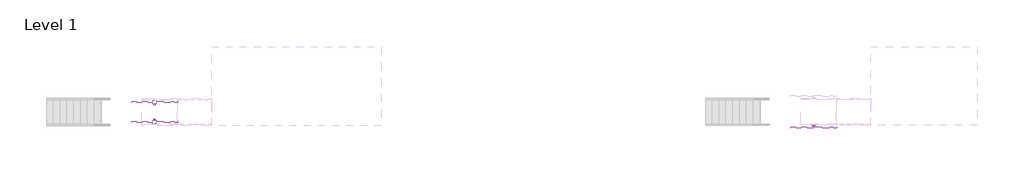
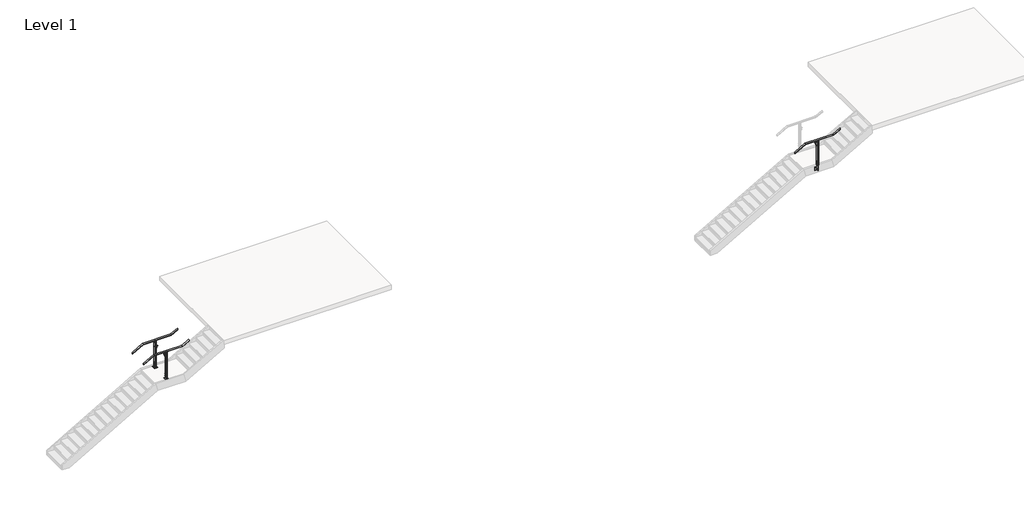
# One storey, part 32 of 36: 3 railings.
"""IFC4 building model written with IfcOpenShell, lengths in millimetres."""

from ifc_helpers import new_model, si_unit, point, frame, frame_2d, origin, place, context, project, spatial, polyline, circle_curve, ellipse_curve, trimmed, segment, composite_curve, outline, extrude, element, save
from ifc_brep_helpers import plane_surface, cylinder_surface, revolved_surface, advanced_brep

model = new_model("IFC4")

# Units and contexts
model_context = context("Model", 3, world=origin())
ifc_project = project(units=[si_unit("LENGTHUNIT", "METRE", prefix="MILLI")], contexts=[model_context])

# Site, building, storey
site = spatial("IfcSite", under=ifc_project)
building = spatial("IfcBuilding", under=site)
storey = spatial("IfcBuildingStorey", under=building, Name="Level 1", Elevation=0.0)

# Railings
placement = place(None, origin())
element("IfcRailing", 1, ObjectType="VIVA-BLADE-Glass-Fascia Mount-Stair-Landing", at=placement, inside=storey, context=model_context, shape_type="SolidModel", body=[
    advanced_brep(
    [(161125.2211992, 15702.4539886, 3047.7740933), (161125.2211992, 15753.2539886, 3047.7740933), (161512.9665359, 15702.4539886, 3269.3428571), (161512.9665359, 15753.2539886, 3269.3428571), (162579.7665359, 15702.4539886, 3269.3428571), (162579.7665359, 15753.2539886, 3269.3428571), (162830.1961992, 15702.4539886, 3412.4455219), (162830.1961992, 15753.2539886, 3412.4455219)],
    [
        (0, 1, ellipse_curve(frame((161125.2211992, 15727.8539886, 3047.7740933), z_axis=(-1.0, 0.0, 0.0), x_axis=(0.0, 0.0, -1.0)), 29.2544781, 25.4)),
        (1, 0, ellipse_curve(frame((161125.2211992, 15727.8539886, 3047.7740933), z_axis=(-1.0, 0.0, 0.0), x_axis=(0.0, 0.0, -1.0)), 29.2544781, 25.4)),
        (0, 2),
        (2, 3, ellipse_curve(frame((161512.9665359, 15727.8539886, 3269.3428571), z_axis=(-0.9664996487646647, 0.0, -0.25666793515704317), x_axis=(0.2566679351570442, 0.0, -0.9664996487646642)), 26.2804027, 25.4)),
        (3, 1),
        (3, 2, ellipse_curve(frame((161512.9665359, 15727.8539886, 3269.3428571), z_axis=(-0.9664996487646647, 0.0, -0.25666793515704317), x_axis=(0.2566679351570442, 0.0, -0.9664996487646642)), 26.2804027, 25.4)),
        (2, 4),
        (4, 5, ellipse_curve(frame((162579.7665359, 15727.8539886, 3269.3428571), z_axis=(-0.966499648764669, 0.0, -0.25666793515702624), x_axis=(-0.25666793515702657, 0.0, 0.966499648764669)), 26.2804027, 25.4)),
        (5, 3),
        (5, 4, ellipse_curve(frame((162579.7665359, 15727.8539886, 3269.3428571), z_axis=(-0.966499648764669, 0.0, -0.25666793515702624), x_axis=(-0.25666793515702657, 0.0, 0.966499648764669)), 26.2804027, 25.4)),
        (6, 7, ellipse_curve(frame((162830.1961992, 15727.8539886, 3412.4455219), z_axis=(1.0, 0.0, 0.0), x_axis=(0.0, 0.0, -1.0)), 29.2544781, 25.4)),
        (7, 6, ellipse_curve(frame((162830.1961992, 15727.8539886, 3412.4455219), z_axis=(1.0, 0.0, 0.0), x_axis=(0.0, 0.0, -1.0)), 29.2544781, 25.4)),
        (4, 6),
        (7, 5),
    ],
    [
        plane_surface(frame((161125.2211992, 15727.8539886, 3077.0285714), z_axis=(-1.0, 0.0, 0.0), x_axis=(0.0, 1.0, 0.0))),
        cylinder_surface(frame((161137.8231282, 15727.8539886, 3054.9751956), z_axis=(-0.8682431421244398, 0.0, -0.49613893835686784), x_axis=(0.0, 1.0, 0.0)), 25.4),
        cylinder_surface(frame((161506.2211992, 15727.8539886, 3269.3428571), z_axis=(-1.0, 0.0, 0.0), x_axis=(0.0, 1.0, 0.0)), 25.4),
        plane_surface(frame((162830.1961992, 15727.8539886, 3441.7), z_axis=(1.0, 0.0, 0.0), x_axis=(0.0, 1.0, 0.0))),
        cylinder_surface(frame((162585.6231282, 15727.8539886, 3272.6894813), z_axis=(-0.8682431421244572, 0.0, -0.49613893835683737), x_axis=(0.0, 1.0, 0.0)), 25.4),
    ],
    [
        (0, [[1, 2]]),
        (1, [[-1, 3, 4, 5]]),
        (1, [[-2, -5, 6, -3]]),
        (2, [[-4, 7, 8, 9]]),
        (2, [[-6, -9, 10, -7]]),
        (3, [[11, 12]]),
        (4, [[-8, 13, -12, 14]]),
        (4, [[-10, -14, -11, -13]]),
    ],
),
    extrude(outline(composite_curve([segment(trimmed(circle_curve(frame_2d((0.0, 7.0)), 7.0), [point((0.0, 14.0))], [point((0.0, 0.0))], False, "CARTESIAN"), True, "CONTINUOUS"), segment(trimmed(circle_curve(frame_2d((0.0, 7.0)), 7.0), [point((0.0, 0.0))], [point((0.0, 14.0))], False, "CARTESIAN"), True, "CONTINUOUS")], self_intersect=False)), frame((161977.6244493, 15813.537611, 3013.7229503), z_axis=(0.0012555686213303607, 0.0, 0.999999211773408), x_axis=(0.999999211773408, 0.0, -0.0012555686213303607)), (0.0, 0.0, 1.0), 75.97),
    extrude(outline(composite_curve([segment(trimmed(circle_curve(frame_2d((15821.785543, 3111.669086)), 19.05), [point((15808.2559548, 3098.2581672))], [point((15835.3151313, 3098.2581672))], True, "CARTESIAN"), True, "CONTINUOUS"), segment(polyline([(15835.3151313, 3098.2581672), (15836.3415209, 3097.2407802)]), True, "CONTINUOUS"), segment(trimmed(circle_curve(frame_2d((15835.285543, 3096.1754583)), 1.5), [point((15836.3415209, 3097.2407802))], [point((15836.2709445, 3095.0445366))], False, "CARTESIAN"), True, "CONTINUOUS"), segment(trimmed(circle_curve(frame_2d((15821.785543, 3111.669086)), 22.05), [point((15836.2709445, 3095.0445366))], [point((15807.3001416, 3095.0445366))], False, "CARTESIAN"), True, "CONTINUOUS"), segment(trimmed(circle_curve(frame_2d((15808.285543, 3096.1754583)), 1.5), [point((15807.3001416, 3095.0445366))], [point((15807.2295652, 3097.2407802))], False, "CARTESIAN"), True, "CONTINUOUS"), segment(polyline([(15807.2295652, 3097.2407802), (15808.2559548, 3098.2581672)]), True, "CONTINUOUS")], self_intersect=False)), frame((161941.2730645, 0.0, 0.0), z_axis=(1.0, 0.0, 0.0), x_axis=(0.0, 1.0, 0.0)), (0.0, 0.0, 1.0), 74.5229187),
    extrude(outline(composite_curve([segment(trimmed(circle_curve(frame_2d((3040.5995463, 161977.6843528)), 12.5), [point((3040.5995463, 161965.1843528))], [point((3040.5995463, 161990.1843528))], False, "CARTESIAN"), True, "CONTINUOUS"), segment(trimmed(circle_curve(frame_2d((3040.5995463, 161977.6843528)), 12.5), [point((3040.5995463, 161990.1843528))], [point((3040.5995463, 161965.1843528))], False, "CARTESIAN"), True, "CONTINUOUS")], self_intersect=False)), frame((0.0, 15753.2537852, 0.0), z_axis=(0.0, 1.0, 0.0), x_axis=(0.0, 0.0, 1.0)), (0.0, 0.0, 1.0), 82.061346),
    extrude(outline(polyline([(162004.7835349, 15759.6037852), (162004.7835349, 15753.2537852), (161950.6561349, 15753.2537852), (161950.6561349, 15759.6037852), (162004.7835349, 15759.6037852)])), frame((0.0, 0.0, 3013.6558249), z_axis=(0.0, 0.0, 1.0), x_axis=(1.0, 0.0, 0.0)), (0.0, 0.0, 1.0), 54.1734375),
    advanced_brep(
    [(162022.9460992, 15740.6141122, 3247.3396226), (162022.9460992, 15715.7420477, 3247.1963856), (162022.9460992, 15712.9331174, 3242.3696317), (162022.9460992, 15744.4500096, 3242.9503901), (161932.4712992, 15740.6141122, 3247.3396226), (161932.4712992, 15744.4500096, 3242.9503901), (161932.4712992, 15712.819324, 3242.4322535), (161932.4712992, 15715.6550756, 3247.2447018)],
    [
        (0, 1, circle_curve(frame((162022.9460992, 15728.0503093, 3269.4544469), z_axis=(-1.0, 0.0, 0.0), x_axis=(0.0, 1.0, 0.0)), 25.4345159)),
        (1, 2, circle_curve(frame((162022.9460992, 15714.4104224, 3244.742217), z_axis=(1.0, 0.0, 0.0), x_axis=(0.0, 1.0, 0.0)), 2.7949225)),
        (2, 3, circle_curve(frame((162022.9460992, 15728.1837724, 3270.2170736), z_axis=(1.0, 0.0, 0.0), x_axis=(0.0, 1.0, 0.0)), 31.75)),
        (3, 0, circle_curve(frame((162022.9460992, 15742.1616699, 3244.8213092), z_axis=(1.0, 0.0, 0.0), x_axis=(0.0, 1.0, 0.0)), 2.9558141)),
        (4, 5, circle_curve(frame((161932.4712992, 15742.1616699, 3244.8213092), z_axis=(-1.0, 0.0, 0.0), x_axis=(0.0, 1.0, 0.0)), 2.9558141)),
        (5, 6, circle_curve(frame((161932.4712992, 15728.1837724, 3270.2170736), z_axis=(-1.0, 0.0, 0.0), x_axis=(0.0, 1.0, 0.0)), 31.75)),
        (6, 7, circle_curve(frame((161932.4712992, 15714.4104224, 3244.742217), z_axis=(-1.0, 0.0, 0.0), x_axis=(0.0, 1.0, 0.0)), 2.7949225)),
        (7, 4, circle_curve(frame((161932.4712992, 15728.0503093, 3269.4544469), z_axis=(1.0, 0.0, 0.0), x_axis=(0.0, 1.0, 0.0)), 25.4345159)),
        (0, 4),
        (7, 1),
        (6, 2),
        (5, 3),
    ],
    [
        plane_surface(frame((162022.9460992, 15753.4848252, 3269.4544469), z_axis=(1.0, 0.0, 0.0), x_axis=(0.0, 0.0, -1.0))),
        plane_surface(frame((161932.4712992, 15753.4848252, 3269.4544469), z_axis=(-1.0, 0.0, 0.0), x_axis=(0.0, 0.0, 1.0))),
        revolved_surface(polyline([(161932.4712992, 15753.484825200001, 3269.4544469), (162022.9460992, 15753.484825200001, 3269.4544469)]), (161932.4712992, 15728.0503093, 3269.4544469), (-1.0, 0.0, 0.0)),
        cylinder_surface(frame((161932.4712992, 15714.4104224, 3244.742217), z_axis=(1.0, 0.0, 0.0), x_axis=(0.0, 1.0, 0.0)), 2.7949225),
        cylinder_surface(frame((161932.4712992, 15728.1837724, 3270.2170736), z_axis=(1.0, 0.0, 0.0), x_axis=(0.0, 1.0, 0.0)), 31.75),
        cylinder_surface(frame((161932.4712992, 15742.1616699, 3244.8213092), z_axis=(1.0, 0.0, 0.0), x_axis=(0.0, 1.0, 0.0)), 2.9558141),
    ],
    [
        (0, [[1, 2, 3, 4]]),
        (1, [[5, 6, 7, 8]]),
        (2, [[-1, 9, -8, 10]]),
        (3, [[-2, -10, -7, 11]]),
        (4, [[-3, -11, -6, 12]]),
        (5, [[-4, -12, -5, -9]]),
    ],
),
    extrude(outline(polyline([(162041.1967623, 15804.0541943), (162041.1967623, 15794.5291943), (161914.1967623, 15794.5291943), (161914.1967623, 15804.0541943), (162041.1967623, 15804.0541943)])), frame((0.0, 0.0, 2024.7428571), z_axis=(0.0, 0.0, 1.0), x_axis=(1.0, 0.0, 0.0)), (0.0, 0.0, 1.0), 127.0),
    extrude(outline(composite_curve([segment(trimmed(circle_curve(frame_2d((3229.6553571, 162004.776614)), 14.3679149), [point((3229.6553571, 161990.4086992))], [point((3244.023272, 162004.776614))], True, "CARTESIAN"), True, "CONTINUOUS"), segment(polyline([(3244.023272, 162004.776614), (3244.023272, 161950.6407843)]), True, "CONTINUOUS"), segment(trimmed(circle_curve(frame_2d((3229.6553571, 161950.6407843)), 14.3679149), [point((3244.023272, 161950.6407843))], [point((3229.6553571, 161965.0086992))], True, "CARTESIAN"), True, "CONTINUOUS"), segment(polyline([(3229.6553571, 161965.0086992), (3229.6553571, 161990.4086992)]), True, "CONTINUOUS")], self_intersect=False)), frame((0.0, 15725.3139886, 0.0), z_axis=(0.0, 1.0, 0.0), x_axis=(0.0, 0.0, 1.0)), (0.0, 0.0, 1.0), 5.08),
    extrude(outline(polyline([(161985.6377004, 15785.0041943), (161985.6377004, 15753.2533864), (161969.70171, 15753.2533864), (161969.70171, 15785.0041943), (161985.6377004, 15785.0041943)])), frame((0.0, 0.0, 2056.4928571), z_axis=(0.0, 0.0, 1.0), x_axis=(1.0, 0.0, 0.0)), (0.0, 0.0, 1.0), 63.5),
    extrude(outline(polyline([(161950.6338635, 15753.2537852), (161958.6586992, 15753.2537852), (161958.6586992, 15702.4514606), (161950.6338635, 15702.4514606), (161950.6338635, 15753.2537852)])), frame((0.0, 0.0, 2269.3940557), z_axis=(0.0, 0.0, 1.0), x_axis=(1.0, 0.0, 0.0)), (0.0, 0.0, 1.0), 942.7988015),
    extrude(outline(polyline([(2024.7428571, 161914.1967623), (2024.7428571, 162041.1967623), (2151.7428571, 162041.1967623), (2151.7428571, 161914.1967623), (2024.7428571, 161914.1967623)]), holes=[composite_curve([segment(trimmed(circle_curve(frame_2d((2132.6928571, 161933.2467623)), 4.7068371), [point((2132.6928571, 161937.9535994))], [point((2132.6928571, 161928.5399252))], True, "CARTESIAN"), True, "CONTINUOUS"), segment(trimmed(circle_curve(frame_2d((2132.6928571, 161933.2467623)), 4.7068371), [point((2132.6928571, 161928.5399252))], [point((2132.6928571, 161937.9535994))], True, "CARTESIAN"), True, "CONTINUOUS")], self_intersect=False), composite_curve([segment(trimmed(circle_curve(frame_2d((2132.6928571, 162022.1467623)), 4.7068371), [point((2132.6928571, 162026.8535994))], [point((2132.6928571, 162017.4399252))], True, "CARTESIAN"), True, "CONTINUOUS"), segment(trimmed(circle_curve(frame_2d((2132.6928571, 162022.1467623)), 4.7068371), [point((2132.6928571, 162017.4399252))], [point((2132.6928571, 162026.8535994))], True, "CARTESIAN"), True, "CONTINUOUS")], self_intersect=False), composite_curve([segment(trimmed(circle_curve(frame_2d((2043.7928571, 162022.1467623)), 4.7068371), [point((2043.7928571, 162026.8535994))], [point((2043.7928571, 162017.4399252))], True, "CARTESIAN"), True, "CONTINUOUS"), segment(trimmed(circle_curve(frame_2d((2043.7928571, 162022.1467623)), 4.7068371), [point((2043.7928571, 162017.4399252))], [point((2043.7928571, 162026.8535994))], True, "CARTESIAN"), True, "CONTINUOUS")], self_intersect=False), composite_curve([segment(trimmed(circle_curve(frame_2d((2043.7928571, 161933.2467623)), 4.7068371), [point((2043.7928571, 161937.9535994))], [point((2043.7928571, 161928.5399252))], True, "CARTESIAN"), True, "CONTINUOUS"), segment(trimmed(circle_curve(frame_2d((2043.7928571, 161933.2467623)), 4.7068371), [point((2043.7928571, 161928.5399252))], [point((2043.7928571, 161937.9535994))], True, "CARTESIAN"), True, "CONTINUOUS")], self_intersect=False)]), frame((0.0, 15785.0041943, 0.0), z_axis=(0.0, 1.0, 0.0), x_axis=(0.0, 0.0, 1.0)), (0.0, 0.0, 1.0), 9.525),
    extrude(outline(polyline([(161985.6377004, 15753.2533864), (161985.6377004, 15702.4533941), (161969.70171, 15702.4533941), (161969.70171, 15753.2533864), (161985.6377004, 15753.2533864)])), frame((0.0, 0.0, 2056.4928571), z_axis=(0.0, 0.0, 1.0), x_axis=(1.0, 0.0, 0.0)), (0.0, 0.0, 1.0), 393.7),
    extrude(outline(composite_curve([segment(trimmed(circle_curve(frame_2d((15715.1515116, 3201.2845501)), 8.89), [point((15706.2615116, 3201.2845501))], [point((15724.0415116, 3201.2845501))], False, "CARTESIAN"), True, "CONTINUOUS"), segment(trimmed(circle_curve(frame_2d((15715.1515116, 3201.2845501)), 8.89), [point((15724.0415116, 3201.2845501))], [point((15706.2615116, 3201.2845501))], False, "CARTESIAN"), True, "CONTINUOUS")], self_intersect=False)), frame((161945.9586992, 0.0, 0.0), z_axis=(1.0, 0.0, 0.0), x_axis=(0.0, 1.0, 0.0)), (0.0, 0.0, 1.0), 63.4880631),
    extrude(outline(composite_curve([segment(trimmed(circle_curve(frame_2d((15740.5514096, 3201.2845501)), 8.89), [point((15731.6614096, 3201.2845501))], [point((15749.4414096, 3201.2845501))], False, "CARTESIAN"), True, "CONTINUOUS"), segment(trimmed(circle_curve(frame_2d((15740.5514096, 3201.2845501)), 8.89), [point((15749.4414096, 3201.2845501))], [point((15731.6614096, 3201.2845501))], False, "CARTESIAN"), True, "CONTINUOUS")], self_intersect=False)), frame((161945.9586992, 0.0, 0.0), z_axis=(1.0, 0.0, 0.0), x_axis=(0.0, 1.0, 0.0)), (0.0, 0.0, 1.0), 63.4880631),
    extrude(outline(polyline([(3189.9551571, 161958.6586992), (3189.9551571, 161996.7586992), (3223.3053571, 161996.7586992), (3229.6553571, 161990.4086992), (3229.6553571, 161965.0086992), (3223.3053571, 161958.6586992), (3189.9551571, 161958.6586992)])), frame((0.0, 15702.4514606, 0.0), z_axis=(0.0, 1.0, 0.0), x_axis=(0.0, 0.0, 1.0)), (0.0, 0.0, 1.0), 50.8025279),
    extrude(outline(composite_curve([segment(trimmed(circle_curve(frame_2d((15727.8541943, 2416.8976493)), 19.05), [point((15708.8041943, 2416.8976493))], [point((15746.9041943, 2416.8976493))], False, "CARTESIAN"), True, "CONTINUOUS"), segment(trimmed(circle_curve(frame_2d((15727.8541943, 2416.8976493)), 19.05), [point((15746.9041943, 2416.8976493))], [point((15708.8041943, 2416.8976493))], False, "CARTESIAN"), True, "CONTINUOUS")], self_intersect=False)), frame((161941.2596992, 0.0, 0.0), z_axis=(1.0, 0.0, 0.0), x_axis=(0.0, 1.0, 0.0)), (0.0, 0.0, 1.0), 72.8981531),
    extrude(outline(composite_curve([segment(trimmed(circle_curve(frame_2d((15727.8541943, 2327.9976493)), 19.05), [point((15708.8041943, 2327.9976493))], [point((15746.9041943, 2327.9976493))], False, "CARTESIAN"), True, "CONTINUOUS"), segment(trimmed(circle_curve(frame_2d((15727.8541943, 2327.9976493)), 19.05), [point((15746.9041943, 2327.9976493))], [point((15708.8041943, 2327.9976493))], False, "CARTESIAN"), True, "CONTINUOUS")], self_intersect=False)), frame((161941.2596992, 0.0, 0.0), z_axis=(1.0, 0.0, 0.0), x_axis=(0.0, 1.0, 0.0)), (0.0, 0.0, 1.0), 72.8981531),
    extrude(outline(polyline([(161996.7586611, 15753.2537852), (162004.7596611, 15753.2537852), (162004.7596611, 15702.4514606), (161996.7586611, 15702.4514606), (161996.7586611, 15753.2537852)])), frame((0.0, 0.0, 2269.3940557), z_axis=(0.0, 0.0, 1.0), x_axis=(1.0, 0.0, 0.0)), (0.0, 0.0, 1.0), 942.7988015),
])
element("IfcRailing", 2, ObjectType="VIVA-BLADE-Glass-Floor Mount-Stair-Landing", at=placement, inside=storey, context=model_context, shape_type="SolidModel", body=[
    advanced_brep(
    [(136575.2474271, 15909.5395941, 3047.7740933), (136575.2474271, 15960.3395941, 3047.7740933), (136962.9927638, 15909.5395941, 3269.3428571), (136962.9927638, 15960.3395941, 3269.3428571), (138029.7927638, 15909.5395941, 3269.3428571), (138029.7927638, 15960.3395941, 3269.3428571), (138280.2224271, 15909.5395941, 3412.4455219), (138280.2224271, 15960.3395941, 3412.4455219)],
    [
        (0, 1, ellipse_curve(frame((136575.2474271, 15934.9395941, 3047.7740933), z_axis=(-1.0, 0.0, 0.0), x_axis=(0.0, 0.0, -0.9999999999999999)), 29.2544781, 25.4)),
        (1, 0, ellipse_curve(frame((136575.2474271, 15934.9395941, 3047.7740933), z_axis=(-1.0, 0.0, 0.0), x_axis=(0.0, 0.0, -0.9999999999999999)), 29.2544781, 25.4)),
        (0, 2),
        (2, 3, ellipse_curve(frame((136962.9927638, 15934.9395941, 3269.3428571), z_axis=(-0.9664996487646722, 0.0, -0.2566679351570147), x_axis=(0.25666793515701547, 0.0, -0.9664996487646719)), 26.2804027, 25.4)),
        (3, 1),
        (3, 2, ellipse_curve(frame((136962.9927638, 15934.9395941, 3269.3428571), z_axis=(-0.9664996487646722, 0.0, -0.2566679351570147), x_axis=(0.25666793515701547, 0.0, -0.9664996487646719)), 26.2804027, 25.4)),
        (2, 4),
        (4, 5, ellipse_curve(frame((138029.7927638, 15934.9395941, 3269.3428571), z_axis=(-0.9664996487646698, 0.0, -0.2566679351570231), x_axis=(-0.2566679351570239, 0.0, 0.9664996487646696)), 26.2804027, 25.4)),
        (5, 3),
        (5, 4, ellipse_curve(frame((138029.7927638, 15934.9395941, 3269.3428571), z_axis=(-0.9664996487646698, 0.0, -0.2566679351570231), x_axis=(-0.2566679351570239, 0.0, 0.9664996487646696)), 26.2804027, 25.4)),
        (6, 7, ellipse_curve(frame((138280.2224271, 15934.9395941, 3412.4455219), z_axis=(1.0, 0.0, 0.0), x_axis=(0.0, 0.0, -1.0)), 29.2544781, 25.4)),
        (7, 6, ellipse_curve(frame((138280.2224271, 15934.9395941, 3412.4455219), z_axis=(1.0, 0.0, 0.0), x_axis=(0.0, 0.0, -1.0)), 29.2544781, 25.4)),
        (4, 6),
        (7, 5),
    ],
    [
        plane_surface(frame((136575.2474271, 15934.9395941, 3077.0285714), z_axis=(-1.0, 0.0, 0.0), x_axis=(0.0, 1.0, 0.0))),
        cylinder_surface(frame((136587.8493561, 15934.9395941, 3054.9751956), z_axis=(-0.868243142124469, 0.0, -0.49613893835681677), x_axis=(0.0, 1.0, 0.0)), 25.4),
        cylinder_surface(frame((136956.2474271, 15934.9395941, 3269.3428571), z_axis=(-1.0, 0.0, 0.0), x_axis=(0.0, 1.0, 0.0)), 25.4),
        plane_surface(frame((138280.2224271, 15934.9395941, 3441.7), z_axis=(1.0, 0.0, 0.0), x_axis=(0.0, 1.0, 0.0))),
        cylinder_surface(frame((138035.6493561, 15934.9395941, 3272.6894813), z_axis=(-0.8682431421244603, 0.0, -0.4961389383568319), x_axis=(0.0, 1.0, 0.0)), 25.4),
    ],
    [
        (0, [[1, 2]]),
        (1, [[-1, 3, 4, 5]]),
        (1, [[-2, -5, 6, -3]]),
        (2, [[-4, 7, 8, 9]]),
        (2, [[-6, -9, 10, -7]]),
        (3, [[11, 12]]),
        (4, [[-8, 13, -12, 14]]),
        (4, [[-10, -14, -11, -13]]),
    ],
),
    extrude(outline(composite_curve([segment(trimmed(circle_curve(frame_2d((0.0, 7.0)), 7.0), [point((0.0, 14.0))], [point((0.0, 0.0))], False, "CARTESIAN"), True, "CONTINUOUS"), segment(trimmed(circle_curve(frame_2d((0.0, 7.0)), 7.0), [point((0.0, 0.0))], [point((0.0, 14.0))], False, "CARTESIAN"), True, "CONTINUOUS")], self_intersect=False)), frame((137427.6506773, 16020.6232165, 3013.7229503), z_axis=(0.0012555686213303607, 0.0, 0.999999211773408), x_axis=(0.999999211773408, 0.0, -0.0012555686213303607)), (0.0, 0.0, 1.0), 75.97),
    extrude(outline(composite_curve([segment(trimmed(circle_curve(frame_2d((16028.8711486, 3111.669086)), 19.05), [point((16015.3415603, 3098.2581672))], [point((16042.4007368, 3098.2581672))], True, "CARTESIAN"), True, "CONTINUOUS"), segment(polyline([(16042.4007368, 3098.2581672), (16043.4271264, 3097.2407802)]), True, "CONTINUOUS"), segment(trimmed(circle_curve(frame_2d((16042.3711486, 3096.1754583)), 1.5), [point((16043.4271264, 3097.2407802))], [point((16043.35655, 3095.0445366))], False, "CARTESIAN"), True, "CONTINUOUS"), segment(trimmed(circle_curve(frame_2d((16028.8711486, 3111.669086)), 22.05), [point((16043.35655, 3095.0445366))], [point((16014.3857471, 3095.0445366))], False, "CARTESIAN"), True, "CONTINUOUS"), segment(trimmed(circle_curve(frame_2d((16015.3711486, 3096.1754583)), 1.5), [point((16014.3857471, 3095.0445366))], [point((16014.3151707, 3097.2407802))], False, "CARTESIAN"), True, "CONTINUOUS"), segment(polyline([(16014.3151707, 3097.2407802), (16015.3415603, 3098.2581672)]), True, "CONTINUOUS")], self_intersect=False)), frame((137391.2992925, 0.0, 0.0), z_axis=(1.0, 0.0, 0.0), x_axis=(0.0, 1.0, 0.0)), (0.0, 0.0, 1.0), 74.5229187),
    extrude(outline(composite_curve([segment(trimmed(circle_curve(frame_2d((3040.5995463, 137427.7105808)), 12.5), [point((3040.5995463, 137415.2105808))], [point((3040.5995463, 137440.2105808))], False, "CARTESIAN"), True, "CONTINUOUS"), segment(trimmed(circle_curve(frame_2d((3040.5995463, 137427.7105808)), 12.5), [point((3040.5995463, 137440.2105808))], [point((3040.5995463, 137415.2105808))], False, "CARTESIAN"), True, "CONTINUOUS")], self_intersect=False)), frame((0.0, 15960.3393908, 0.0), z_axis=(0.0, 1.0, 0.0), x_axis=(0.0, 0.0, 1.0)), (0.0, 0.0, 1.0), 82.061346),
    extrude(outline(polyline([(137454.8097628, 15966.6893908), (137454.8097628, 15960.3393908), (137400.6823628, 15960.3393908), (137400.6823628, 15966.6893908), (137454.8097628, 15966.6893908)])), frame((0.0, 0.0, 3013.6558249), z_axis=(0.0, 0.0, 1.0), x_axis=(1.0, 0.0, 0.0)), (0.0, 0.0, 1.0), 54.1734375),
    advanced_brep(
    [(137472.9723271, 15947.6997177, 3247.3396226), (137472.9723271, 15922.8276532, 3247.1963856), (137472.9723271, 15920.0187229, 3242.3696317), (137472.9723271, 15951.5356152, 3242.9503901), (137382.4975271, 15947.6997177, 3247.3396226), (137382.4975271, 15951.5356152, 3242.9503901), (137382.4975271, 15919.9049295, 3242.4322535), (137382.4975271, 15922.7406811, 3247.2447018)],
    [
        (0, 1, circle_curve(frame((137472.9723271, 15935.1359148, 3269.4544469), z_axis=(-1.0, 0.0, 0.0), x_axis=(0.0, 1.0, 0.0)), 25.4345159)),
        (1, 2, circle_curve(frame((137472.9723271, 15921.496028, 3244.742217), z_axis=(1.0, 0.0, 0.0), x_axis=(0.0, 1.0, 0.0)), 2.7949225)),
        (2, 3, circle_curve(frame((137472.9723271, 15935.2693779, 3270.2170736), z_axis=(1.0, 0.0, 0.0), x_axis=(0.0, 1.0, 0.0)), 31.75)),
        (3, 0, circle_curve(frame((137472.9723271, 15949.2472754, 3244.8213092), z_axis=(1.0, 0.0, 0.0), x_axis=(0.0, 1.0, 0.0)), 2.9558141)),
        (4, 5, circle_curve(frame((137382.4975271, 15949.2472754, 3244.8213092), z_axis=(-1.0, 0.0, 0.0), x_axis=(0.0, 1.0, 0.0)), 2.9558141)),
        (5, 6, circle_curve(frame((137382.4975271, 15935.2693779, 3270.2170736), z_axis=(-1.0, 0.0, 0.0), x_axis=(0.0, 1.0, 0.0)), 31.75)),
        (6, 7, circle_curve(frame((137382.4975271, 15921.496028, 3244.742217), z_axis=(-1.0, 0.0, 0.0), x_axis=(0.0, 1.0, 0.0)), 2.7949225)),
        (7, 4, circle_curve(frame((137382.4975271, 15935.1359148, 3269.4544469), z_axis=(1.0, 0.0, 0.0), x_axis=(0.0, 1.0, 0.0)), 25.4345159)),
        (0, 4),
        (7, 1),
        (6, 2),
        (5, 3),
    ],
    [
        plane_surface(frame((137472.9723271, 15960.5704307, 3269.4544469), z_axis=(1.0, 0.0, 0.0), x_axis=(0.0, 0.0, -1.0))),
        plane_surface(frame((137382.4975271, 15960.5704307, 3269.4544469), z_axis=(-1.0, 0.0, 0.0), x_axis=(0.0, 0.0, 1.0))),
        revolved_surface(polyline([(137382.4975271, 15960.5704307, 3269.4544469), (137472.9723271, 15960.5704307, 3269.4544469)]), (137382.4975271, 15935.1359148, 3269.4544469), (-1.0, 0.0, 0.0)),
        cylinder_surface(frame((137382.4975271, 15921.496028, 3244.742217), z_axis=(1.0, 0.0, 0.0), x_axis=(0.0, 1.0, 0.0)), 2.7949225),
        cylinder_surface(frame((137382.4975271, 15935.2693779, 3270.2170736), z_axis=(1.0, 0.0, 0.0), x_axis=(0.0, 1.0, 0.0)), 31.75),
        cylinder_surface(frame((137382.4975271, 15949.2472754, 3244.8213092), z_axis=(1.0, 0.0, 0.0), x_axis=(0.0, 1.0, 0.0)), 2.9558141),
    ],
    [
        (0, [[1, 2, 3, 4]]),
        (1, [[5, 6, 7, 8]]),
        (2, [[-1, 9, -8, 10]]),
        (3, [[-2, -10, -7, 11]]),
        (4, [[-3, -11, -6, 12]]),
        (5, [[-4, -12, -5, -9]]),
    ],
),
    advanced_brep(
    [(137440.4349271, 15937.4795941, 3229.6553571), (137415.0349271, 15937.4795941, 3229.6553571), (137400.6670122, 15937.4795941, 3244.023272), (137454.802842, 15937.4795941, 3244.023272), (137440.4349271, 15932.3995941, 3229.6553571), (137454.802842, 15932.3995941, 3244.023272), (137400.6670122, 15932.3995941, 3244.023272), (137415.0349271, 15932.3995941, 3229.6553571)],
    [
        (0, 1),
        (1, 2, circle_curve(frame((137400.6670122, 15937.4795941, 3229.6553571), z_axis=(0.0, -1.0, 0.0), x_axis=(-1.0, 0.0, 0.0)), 14.3679149)),
        (2, 3),
        (3, 0, circle_curve(frame((137454.802842, 15937.4795941, 3229.6553571), z_axis=(0.0, -1.0, 0.0), x_axis=(-1.0, 0.0, 0.0)), 14.3679149)),
        (4, 5, circle_curve(frame((137454.802842, 15932.3995941, 3229.6553571), z_axis=(0.0, 1.0, 0.0), x_axis=(-1.0, 0.0, 0.0)), 14.3679149)),
        (5, 6),
        (6, 7, circle_curve(frame((137400.6670122, 15932.3995941, 3229.6553571), z_axis=(0.0, 1.0, 0.0), x_axis=(-1.0, 0.0, 0.0)), 14.3679149)),
        (7, 4),
        (0, 4),
        (7, 1),
        (6, 2),
        (5, 3),
    ],
    [
        plane_surface(frame((137415.0349271, 15937.4795941, 3229.6553571), z_axis=(0.0, 1.0, 0.0), x_axis=(-1.0, 0.0, 0.0))),
        plane_surface(frame((137415.0349271, 15932.3995941, 3229.6553571), z_axis=(0.0, -1.0, 0.0), x_axis=(1.0, 0.0, 0.0))),
        plane_surface(frame((137440.4349271, 15937.4795941, 3229.6553571), z_axis=(0.0, 0.0, -1.0), x_axis=(0.0, -1.0, 0.0))),
        revolved_surface(polyline([(137386.29909729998, 15932.3995941, 3229.6553571), (137386.29909729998, 15937.4795941, 3229.6553571)]), (137400.6670122, 15932.3995941, 3229.6553571), (0.0, -1.0, 0.0)),
        plane_surface(frame((137400.6670122, 15937.4795941, 3244.023272), z_axis=(0.0, 0.0, 1.0), x_axis=(0.0, -1.0, 0.0))),
        revolved_surface(polyline([(137440.4349271, 15932.3995941, 3229.6553571), (137440.4349271, 15937.4795941, 3229.6553571)]), (137454.802842, 15932.3995941, 3229.6553571), (0.0, -1.0, 0.0)),
    ],
    [
        (0, [[1, 2, 3, 4]]),
        (1, [[5, 6, 7, 8]]),
        (2, [[-1, 9, -8, 10]]),
        (3, [[-2, -10, -7, 11]]),
        (4, [[-3, -11, -6, 12]]),
        (5, [[-4, -12, -5, -9]]),
    ],
),
    extrude(outline(polyline([(137491.2229903, 15864.5689084), (137364.2229903, 15864.5689084), (137364.2229903, 15998.4384), (137491.2229903, 15998.4384), (137491.2229903, 15864.5689084)]), holes=[composite_curve([segment(trimmed(circle_curve(frame_2d((137383.2729903, 15890.4907882)), 4.7625), [point((137383.2729903, 15885.7282882))], [point((137383.2729903, 15895.2532882))], True, "CARTESIAN"), True, "CONTINUOUS"), segment(trimmed(circle_curve(frame_2d((137383.2729903, 15890.4907882)), 4.7625), [point((137383.2729903, 15895.2532882))], [point((137383.2729903, 15885.7282882))], True, "CARTESIAN"), True, "CONTINUOUS")], self_intersect=False), composite_curve([segment(trimmed(circle_curve(frame_2d((137383.2729903, 15979.3884)), 4.7625), [point((137383.2729903, 15974.6259))], [point((137383.2729903, 15984.1509))], True, "CARTESIAN"), True, "CONTINUOUS"), segment(trimmed(circle_curve(frame_2d((137383.2729903, 15979.3884)), 4.7625), [point((137383.2729903, 15984.1509))], [point((137383.2729903, 15974.6259))], True, "CARTESIAN"), True, "CONTINUOUS")], self_intersect=False), composite_curve([segment(trimmed(circle_curve(frame_2d((137472.1729903, 15979.3884)), 4.7625), [point((137472.1729903, 15974.6259))], [point((137472.1729903, 15984.1509))], True, "CARTESIAN"), True, "CONTINUOUS"), segment(trimmed(circle_curve(frame_2d((137472.1729903, 15979.3884)), 4.7625), [point((137472.1729903, 15984.1509))], [point((137472.1729903, 15974.6259))], True, "CARTESIAN"), True, "CONTINUOUS")], self_intersect=False), composite_curve([segment(trimmed(circle_curve(frame_2d((137472.1729903, 15890.4907882)), 4.7625), [point((137472.1729903, 15885.7282882))], [point((137472.1729903, 15895.2532882))], True, "CARTESIAN"), True, "CONTINUOUS"), segment(trimmed(circle_curve(frame_2d((137472.1729903, 15890.4907882)), 4.7625), [point((137472.1729903, 15895.2532882))], [point((137472.1729903, 15885.7282882))], True, "CARTESIAN"), True, "CONTINUOUS")], self_intersect=False)]), frame((0.0, 0.0, 2177.1428571), z_axis=(0.0, 0.0, 1.0), x_axis=(1.0, 0.0, 0.0)), (0.0, 0.0, 1.0), 9.525),
    extrude(outline(polyline([(137400.6600914, 15960.3393908), (137408.6849271, 15960.3393908), (137408.6849271, 15909.5370662), (137400.6600914, 15909.5370662), (137400.6600914, 15960.3393908)])), frame((0.0, 0.0, 2237.6440557), z_axis=(0.0, 0.0, 1.0), x_axis=(1.0, 0.0, 0.0)), (0.0, 0.0, 1.0), 974.5488015),
    extrude(outline(polyline([(137435.6639284, 15960.3389919), (137435.6639284, 15909.5389996), (137419.7279379, 15909.5389996), (137419.7279379, 15960.3389919), (137435.6639284, 15960.3389919)])), frame((0.0, 0.0, 2186.6678571), z_axis=(0.0, 0.0, 1.0), x_axis=(1.0, 0.0, 0.0)), (0.0, 0.0, 1.0), 231.775),
    extrude(outline(composite_curve([segment(trimmed(circle_curve(frame_2d((15922.2371172, 3201.2845501)), 8.89), [point((15913.3471172, 3201.2845501))], [point((15931.1271172, 3201.2845501))], False, "CARTESIAN"), True, "CONTINUOUS"), segment(trimmed(circle_curve(frame_2d((15922.2371172, 3201.2845501)), 8.89), [point((15931.1271172, 3201.2845501))], [point((15913.3471172, 3201.2845501))], False, "CARTESIAN"), True, "CONTINUOUS")], self_intersect=False)), frame((137395.9849271, 0.0, 0.0), z_axis=(1.0, 0.0, 0.0), x_axis=(0.0, 1.0, 0.0)), (0.0, 0.0, 1.0), 63.4880631),
    extrude(outline(composite_curve([segment(trimmed(circle_curve(frame_2d((15947.6370151, 3201.2845501)), 8.89), [point((15938.7470151, 3201.2845501))], [point((15956.5270151, 3201.2845501))], False, "CARTESIAN"), True, "CONTINUOUS"), segment(trimmed(circle_curve(frame_2d((15947.6370151, 3201.2845501)), 8.89), [point((15956.5270151, 3201.2845501))], [point((15938.7470151, 3201.2845501))], False, "CARTESIAN"), True, "CONTINUOUS")], self_intersect=False)), frame((137395.9849271, 0.0, 0.0), z_axis=(1.0, 0.0, 0.0), x_axis=(0.0, 1.0, 0.0)), (0.0, 0.0, 1.0), 63.4880631),
    extrude(outline(polyline([(3189.9551571, 137408.6849271), (3189.9551571, 137446.7849271), (3223.3053571, 137446.7849271), (3229.6553571, 137440.4349271), (3229.6553571, 137415.0349271), (3223.3053571, 137408.6849271), (3189.9551571, 137408.6849271)])), frame((0.0, 15909.5370662, 0.0), z_axis=(0.0, 1.0, 0.0), x_axis=(0.0, 0.0, 1.0)), (0.0, 0.0, 1.0), 50.8025279),
    extrude(outline(composite_curve([segment(trimmed(circle_curve(frame_2d((15934.9397998, 2385.1476493)), 19.05), [point((15915.8897998, 2385.1476493))], [point((15953.9897998, 2385.1476493))], False, "CARTESIAN"), True, "CONTINUOUS"), segment(trimmed(circle_curve(frame_2d((15934.9397998, 2385.1476493)), 19.05), [point((15953.9897998, 2385.1476493))], [point((15915.8897998, 2385.1476493))], False, "CARTESIAN"), True, "CONTINUOUS")], self_intersect=False)), frame((137391.2859271, 0.0, 0.0), z_axis=(1.0, 0.0, 0.0), x_axis=(0.0, 1.0, 0.0)), (0.0, 0.0, 1.0), 72.8981531),
    extrude(outline(composite_curve([segment(trimmed(circle_curve(frame_2d((15934.9397998, 2296.2476493)), 19.05), [point((15915.8897998, 2296.2476493))], [point((15953.9897998, 2296.2476493))], False, "CARTESIAN"), True, "CONTINUOUS"), segment(trimmed(circle_curve(frame_2d((15934.9397998, 2296.2476493)), 19.05), [point((15953.9897998, 2296.2476493))], [point((15915.8897998, 2296.2476493))], False, "CARTESIAN"), True, "CONTINUOUS")], self_intersect=False)), frame((137391.2859271, 0.0, 0.0), z_axis=(1.0, 0.0, 0.0), x_axis=(0.0, 1.0, 0.0)), (0.0, 0.0, 1.0), 72.8981531),
    extrude(outline(polyline([(137446.7848891, 15960.3393908), (137454.7858891, 15960.3393908), (137454.7858891, 15909.5370662), (137446.7848891, 15909.5370662), (137446.7848891, 15960.3393908)])), frame((0.0, 0.0, 2237.6440557), z_axis=(0.0, 0.0, 1.0), x_axis=(1.0, 0.0, 0.0)), (0.0, 0.0, 1.0), 974.5488015),
])
element("IfcRailing", 3, ObjectType="VIVA-BLADE-Glass-Floor Mount-Stair-Landing", at=placement, inside=storey, context=model_context, shape_type="SolidModel", body=[
    advanced_brep(
    [(136575.2474271, 16646.1395941, 3047.7740933), (136575.2474271, 16696.9395941, 3047.7740933), (136962.9927638, 16646.1395941, 3269.3428571), (136962.9927638, 16696.9395941, 3269.3428571), (138029.7927638, 16646.1395941, 3269.3428571), (138029.7927638, 16696.9395941, 3269.3428571), (138280.2224271, 16646.1395941, 3412.4455219), (138280.2224271, 16696.9395941, 3412.4455219)],
    [
        (0, 1, ellipse_curve(frame((136575.2474271, 16671.5395941, 3047.7740933), z_axis=(-1.0, 0.0, 0.0), x_axis=(0.0, 0.0, -0.9999999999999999)), 29.2544781, 25.4)),
        (1, 0, ellipse_curve(frame((136575.2474271, 16671.5395941, 3047.7740933), z_axis=(-1.0, 0.0, 0.0), x_axis=(0.0, 0.0, -0.9999999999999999)), 29.2544781, 25.4)),
        (0, 2),
        (2, 3, ellipse_curve(frame((136962.9927638, 16671.5395941, 3269.3428571), z_axis=(-0.9664996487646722, 0.0, -0.2566679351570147), x_axis=(0.25666793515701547, 0.0, -0.9664996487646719)), 26.2804027, 25.4)),
        (3, 1),
        (3, 2, ellipse_curve(frame((136962.9927638, 16671.5395941, 3269.3428571), z_axis=(-0.9664996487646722, 0.0, -0.2566679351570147), x_axis=(0.25666793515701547, 0.0, -0.9664996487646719)), 26.2804027, 25.4)),
        (2, 4),
        (4, 5, ellipse_curve(frame((138029.7927638, 16671.5395941, 3269.3428571), z_axis=(-0.9664996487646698, 0.0, -0.2566679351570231), x_axis=(-0.2566679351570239, 0.0, 0.9664996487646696)), 26.2804027, 25.4)),
        (5, 3),
        (5, 4, ellipse_curve(frame((138029.7927638, 16671.5395941, 3269.3428571), z_axis=(-0.9664996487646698, 0.0, -0.2566679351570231), x_axis=(-0.2566679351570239, 0.0, 0.9664996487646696)), 26.2804027, 25.4)),
        (6, 7, ellipse_curve(frame((138280.2224271, 16671.5395941, 3412.4455219), z_axis=(1.0, 0.0, 0.0), x_axis=(0.0, 0.0, -1.0)), 29.2544781, 25.4)),
        (7, 6, ellipse_curve(frame((138280.2224271, 16671.5395941, 3412.4455219), z_axis=(1.0, 0.0, 0.0), x_axis=(0.0, 0.0, -1.0)), 29.2544781, 25.4)),
        (4, 6),
        (7, 5),
    ],
    [
        plane_surface(frame((136575.2474271, 16671.5395941, 3077.0285714), z_axis=(-1.0, 0.0, 0.0), x_axis=(0.0, 1.0, 0.0))),
        cylinder_surface(frame((136587.8493561, 16671.5395941, 3054.9751956), z_axis=(-0.868243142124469, 0.0, -0.49613893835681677), x_axis=(0.0, 1.0, 0.0)), 25.4),
        cylinder_surface(frame((136956.2474271, 16671.5395941, 3269.3428571), z_axis=(-1.0, 0.0, 0.0), x_axis=(0.0, 1.0, 0.0)), 25.4),
        plane_surface(frame((138280.2224271, 16671.5395941, 3441.7), z_axis=(1.0, 0.0, 0.0), x_axis=(0.0, 1.0, 0.0))),
        cylinder_surface(frame((138035.6493561, 16671.5395941, 3272.6894813), z_axis=(-0.8682431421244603, 0.0, -0.4961389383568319), x_axis=(0.0, 1.0, 0.0)), 25.4),
    ],
    [
        (0, [[1, 2]]),
        (1, [[-1, 3, 4, 5]]),
        (1, [[-2, -5, 6, -3]]),
        (2, [[-4, 7, 8, 9]]),
        (2, [[-6, -9, 10, -7]]),
        (3, [[11, 12]]),
        (4, [[-8, 13, -12, 14]]),
        (4, [[-10, -14, -11, -13]]),
    ],
),
    extrude(outline(composite_curve([segment(trimmed(circle_curve(frame_2d((0.0, -7.0)), 7.0), [point((0.0, -14.0))], [point((0.0, 0.0))], False, "CARTESIAN"), True, "CONTINUOUS"), segment(trimmed(circle_curve(frame_2d((0.0, -7.0)), 7.0), [point((0.0, 0.0))], [point((0.0, -14.0))], False, "CARTESIAN"), True, "CONTINUOUS")], self_intersect=False)), frame((137427.6506773, 16585.8559717, 3013.7229503), z_axis=(0.0012555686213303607, 0.0, 0.999999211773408), x_axis=(0.999999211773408, 0.0, -0.0012555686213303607)), (0.0, 0.0, 1.0), 75.97),
    extrude(outline(composite_curve([segment(polyline([(16591.1376279, 3098.2581672), (16592.1640175, 3097.2407802)]), True, "CONTINUOUS"), segment(trimmed(circle_curve(frame_2d((16591.1080396, 3096.1754583)), 1.5), [point((16592.1640175, 3097.2407802))], [point((16592.0934411, 3095.0445366))], False, "CARTESIAN"), True, "CONTINUOUS"), segment(trimmed(circle_curve(frame_2d((16577.6080396, 3111.669086)), 22.05), [point((16592.0934411, 3095.0445366))], [point((16563.1226382, 3095.0445366))], False, "CARTESIAN"), True, "CONTINUOUS"), segment(trimmed(circle_curve(frame_2d((16564.1080396, 3096.1754583)), 1.5), [point((16563.1226382, 3095.0445366))], [point((16563.0520618, 3097.2407802))], False, "CARTESIAN"), True, "CONTINUOUS"), segment(polyline([(16563.0520618, 3097.2407802), (16564.0784514, 3098.2581672)]), True, "CONTINUOUS"), segment(trimmed(circle_curve(frame_2d((16577.6080396, 3111.669086)), 19.05), [point((16564.0784514, 3098.2581672))], [point((16591.1376279, 3098.2581672))], True, "CARTESIAN"), True, "CONTINUOUS")], self_intersect=False)), frame((137391.2992925, 0.0, 0.0), z_axis=(1.0, 0.0, 0.0), x_axis=(0.0, 1.0, 0.0)), (0.0, 0.0, 1.0), 74.5229187),
    extrude(outline(composite_curve([segment(trimmed(circle_curve(frame_2d((3040.5995463, 137427.7105808)), 12.5), [point((3040.5995463, 137415.2105808))], [point((3040.5995463, 137440.2105808))], False, "CARTESIAN"), True, "CONTINUOUS"), segment(trimmed(circle_curve(frame_2d((3040.5995463, 137427.7105808)), 12.5), [point((3040.5995463, 137440.2105808))], [point((3040.5995463, 137415.2105808))], False, "CARTESIAN"), True, "CONTINUOUS")], self_intersect=False)), frame((0.0, 16564.0784514, 0.0), z_axis=(0.0, 1.0, 0.0), x_axis=(0.0, 0.0, 1.0)), (0.0, 0.0, 1.0), 82.061346),
    extrude(outline(polyline([(137454.8097628, 16639.7897974), (137400.6823628, 16639.7897974), (137400.6823628, 16646.1397974), (137454.8097628, 16646.1397974), (137454.8097628, 16639.7897974)])), frame((0.0, 0.0, 3013.6558249), z_axis=(0.0, 0.0, 1.0), x_axis=(1.0, 0.0, 0.0)), (0.0, 0.0, 1.0), 54.1734375),
    advanced_brep(
    [(137472.9723271, 16658.7794705, 3247.3396226), (137472.9723271, 16654.9435731, 3242.9503901), (137472.9723271, 16686.4604653, 3242.3696317), (137472.9723271, 16683.651535, 3247.1963856), (137382.4975271, 16658.7794705, 3247.3396226), (137382.4975271, 16683.7385071, 3247.2447018), (137382.4975271, 16686.5742587, 3242.4322535), (137382.4975271, 16654.9435731, 3242.9503901)],
    [
        (0, 1, circle_curve(frame((137472.9723271, 16657.2319128, 3244.8213092), z_axis=(1.0, 0.0, 0.0), x_axis=(0.0, -1.0, 0.0)), 2.9558141)),
        (1, 2, circle_curve(frame((137472.9723271, 16671.2098103, 3270.2170736), z_axis=(1.0, 0.0, 0.0), x_axis=(0.0, -1.0, 0.0)), 31.75)),
        (2, 3, circle_curve(frame((137472.9723271, 16684.9831602, 3244.742217), z_axis=(1.0, 0.0, 0.0), x_axis=(0.0, -1.0, 0.0)), 2.7949225)),
        (3, 0, circle_curve(frame((137472.9723271, 16671.3432734, 3269.4544469), z_axis=(-1.0, 0.0, 0.0), x_axis=(0.0, -1.0, 0.0)), 25.4345159)),
        (4, 5, circle_curve(frame((137382.4975271, 16671.3432734, 3269.4544469), z_axis=(1.0, 0.0, 0.0), x_axis=(0.0, -1.0, 0.0)), 25.4345159)),
        (5, 6, circle_curve(frame((137382.4975271, 16684.9831602, 3244.742217), z_axis=(-1.0, 0.0, 0.0), x_axis=(0.0, -1.0, 0.0)), 2.7949225)),
        (6, 7, circle_curve(frame((137382.4975271, 16671.2098103, 3270.2170736), z_axis=(-1.0, 0.0, 0.0), x_axis=(0.0, -1.0, 0.0)), 31.75)),
        (7, 4, circle_curve(frame((137382.4975271, 16657.2319128, 3244.8213092), z_axis=(-1.0, 0.0, 0.0), x_axis=(0.0, -1.0, 0.0)), 2.9558141)),
        (3, 5),
        (4, 0),
        (2, 6),
        (1, 7),
    ],
    [
        plane_surface(frame((137472.9723271, 16645.9087575, 3269.4544469), z_axis=(1.0, 0.0, 0.0), x_axis=(0.0, 0.0, -1.0))),
        plane_surface(frame((137382.4975271, 16645.9087575, 3269.4544469), z_axis=(-1.0, 0.0, 0.0), x_axis=(0.0, 0.0, 1.0))),
        revolved_surface(polyline([(137382.4975271, 16645.9087575, 3269.4544469), (137472.9723271, 16645.9087575, 3269.4544469)]), (137382.4975271, 16671.3432734, 3269.4544469), (-1.0, 0.0, 0.0)),
        cylinder_surface(frame((137382.4975271, 16684.9831602, 3244.742217), z_axis=(1.0, 0.0, 0.0), x_axis=(0.0, -1.0, 0.0)), 2.7949225),
        cylinder_surface(frame((137382.4975271, 16671.2098103, 3270.2170736), z_axis=(1.0, 0.0, 0.0), x_axis=(0.0, -1.0, 0.0)), 31.75),
        cylinder_surface(frame((137382.4975271, 16657.2319128, 3244.8213092), z_axis=(1.0, 0.0, 0.0), x_axis=(0.0, -1.0, 0.0)), 2.9558141),
    ],
    [
        (0, [[1, 2, 3, 4]]),
        (1, [[5, 6, 7, 8]]),
        (2, [[9, -5, 10, -4]]),
        (3, [[11, -6, -9, -3]]),
        (4, [[12, -7, -11, -2]]),
        (5, [[-10, -8, -12, -1]]),
    ],
),
    advanced_brep(
    [(137440.4349271, 16668.9995941, 3229.6553571), (137454.802842, 16668.9995941, 3244.023272), (137400.6670122, 16668.9995941, 3244.023272), (137415.0349271, 16668.9995941, 3229.6553571), (137440.4349271, 16674.0795941, 3229.6553571), (137415.0349271, 16674.0795941, 3229.6553571), (137400.6670122, 16674.0795941, 3244.023272), (137454.802842, 16674.0795941, 3244.023272)],
    [
        (0, 1, circle_curve(frame((137454.802842, 16668.9995941, 3229.6553571), z_axis=(0.0, 1.0, 0.0), x_axis=(-1.0, 0.0, 0.0)), 14.3679149)),
        (1, 2),
        (2, 3, circle_curve(frame((137400.6670122, 16668.9995941, 3229.6553571), z_axis=(0.0, 1.0, 0.0), x_axis=(-1.0, 0.0, 0.0)), 14.3679149)),
        (3, 0),
        (4, 5),
        (5, 6, circle_curve(frame((137400.6670122, 16674.0795941, 3229.6553571), z_axis=(0.0, -1.0, 0.0), x_axis=(-1.0, 0.0, 0.0)), 14.3679149)),
        (6, 7),
        (7, 4, circle_curve(frame((137454.802842, 16674.0795941, 3229.6553571), z_axis=(0.0, -1.0, 0.0), x_axis=(-1.0, 0.0, 0.0)), 14.3679149)),
        (3, 5),
        (4, 0),
        (2, 6),
        (1, 7),
    ],
    [
        plane_surface(frame((137415.0349271, 16668.9995941, 3229.6553571), z_axis=(0.0, -1.0, 0.0), x_axis=(-1.0, 0.0, 0.0))),
        plane_surface(frame((137415.0349271, 16674.0795941, 3229.6553571), z_axis=(0.0, 1.0, 0.0), x_axis=(1.0, 0.0, 0.0))),
        plane_surface(frame((137440.4349271, 16668.9995941, 3229.6553571), z_axis=(0.0, 0.0, -1.0), x_axis=(0.0, 1.0, 0.0))),
        revolved_surface(polyline([(137386.29909729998, 16674.0795941, 3229.6553571), (137386.29909729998, 16668.9995941, 3229.6553571)]), (137400.6670122, 16674.0795941, 3229.6553571), (0.0, 1.0, 0.0)),
        plane_surface(frame((137400.6670122, 16668.9995941, 3244.023272), z_axis=(0.0, 0.0, 1.0), x_axis=(0.0, 1.0, 0.0))),
        revolved_surface(polyline([(137440.4349271, 16674.0795941, 3229.6553571), (137440.4349271, 16668.9995941, 3229.6553571)]), (137454.802842, 16674.0795941, 3229.6553571), (0.0, 1.0, 0.0)),
    ],
    [
        (0, [[1, 2, 3, 4]]),
        (1, [[5, 6, 7, 8]]),
        (2, [[9, -5, 10, -4]]),
        (3, [[11, -6, -9, -3]]),
        (4, [[12, -7, -11, -2]]),
        (5, [[-10, -8, -12, -1]]),
    ],
),
    extrude(outline(polyline([(137491.2229903, 16741.9102798), (137491.2229903, 16608.0407882), (137364.2229903, 16608.0407882), (137364.2229903, 16741.9102798), (137491.2229903, 16741.9102798)]), holes=[composite_curve([segment(trimmed(circle_curve(frame_2d((137383.2729903, 16715.9884)), 4.7625), [point((137383.2729903, 16720.7509))], [point((137383.2729903, 16711.2259))], True, "CARTESIAN"), True, "CONTINUOUS"), segment(trimmed(circle_curve(frame_2d((137383.2729903, 16715.9884)), 4.7625), [point((137383.2729903, 16711.2259))], [point((137383.2729903, 16720.7509))], True, "CARTESIAN"), True, "CONTINUOUS")], self_intersect=False), composite_curve([segment(trimmed(circle_curve(frame_2d((137383.2729903, 16627.0907882)), 4.7625), [point((137383.2729903, 16631.8532882))], [point((137383.2729903, 16622.3282882))], True, "CARTESIAN"), True, "CONTINUOUS"), segment(trimmed(circle_curve(frame_2d((137383.2729903, 16627.0907882)), 4.7625), [point((137383.2729903, 16622.3282882))], [point((137383.2729903, 16631.8532882))], True, "CARTESIAN"), True, "CONTINUOUS")], self_intersect=False), composite_curve([segment(trimmed(circle_curve(frame_2d((137472.1729903, 16627.0907882)), 4.7625), [point((137472.1729903, 16631.8532882))], [point((137472.1729903, 16622.3282882))], True, "CARTESIAN"), True, "CONTINUOUS"), segment(trimmed(circle_curve(frame_2d((137472.1729903, 16627.0907882)), 4.7625), [point((137472.1729903, 16622.3282882))], [point((137472.1729903, 16631.8532882))], True, "CARTESIAN"), True, "CONTINUOUS")], self_intersect=False), composite_curve([segment(trimmed(circle_curve(frame_2d((137472.1729903, 16715.9884)), 4.7625), [point((137472.1729903, 16720.7509))], [point((137472.1729903, 16711.2259))], True, "CARTESIAN"), True, "CONTINUOUS"), segment(trimmed(circle_curve(frame_2d((137472.1729903, 16715.9884)), 4.7625), [point((137472.1729903, 16711.2259))], [point((137472.1729903, 16720.7509))], True, "CARTESIAN"), True, "CONTINUOUS")], self_intersect=False)]), frame((0.0, 0.0, 2177.1428571), z_axis=(0.0, 0.0, 1.0), x_axis=(1.0, 0.0, 0.0)), (0.0, 0.0, 1.0), 9.525),
    extrude(outline(polyline([(137400.6600914, 16646.1397974), (137400.6600914, 16696.942122), (137408.6849271, 16696.942122), (137408.6849271, 16646.1397974), (137400.6600914, 16646.1397974)])), frame((0.0, 0.0, 2237.6440557), z_axis=(0.0, 0.0, 1.0), x_axis=(1.0, 0.0, 0.0)), (0.0, 0.0, 1.0), 974.5488015),
    extrude(outline(polyline([(137435.6639284, 16646.1401963), (137419.7279379, 16646.1401963), (137419.7279379, 16696.9401886), (137435.6639284, 16696.9401886), (137435.6639284, 16646.1401963)])), frame((0.0, 0.0, 2186.6678571), z_axis=(0.0, 0.0, 1.0), x_axis=(1.0, 0.0, 0.0)), (0.0, 0.0, 1.0), 231.775),
    extrude(outline(composite_curve([segment(trimmed(circle_curve(frame_2d((16684.242071, 3201.2845501)), 8.89), [point((16693.132071, 3201.2845501))], [point((16675.352071, 3201.2845501))], False, "CARTESIAN"), True, "CONTINUOUS"), segment(trimmed(circle_curve(frame_2d((16684.242071, 3201.2845501)), 8.89), [point((16675.352071, 3201.2845501))], [point((16693.132071, 3201.2845501))], False, "CARTESIAN"), True, "CONTINUOUS")], self_intersect=False)), frame((137395.9849271, 0.0, 0.0), z_axis=(1.0, 0.0, 0.0), x_axis=(0.0, 1.0, 0.0)), (0.0, 0.0, 1.0), 63.4880631),
    extrude(outline(composite_curve([segment(trimmed(circle_curve(frame_2d((16658.8421731, 3201.2845501)), 8.89), [point((16667.7321731, 3201.2845501))], [point((16649.9521731, 3201.2845501))], False, "CARTESIAN"), True, "CONTINUOUS"), segment(trimmed(circle_curve(frame_2d((16658.8421731, 3201.2845501)), 8.89), [point((16649.9521731, 3201.2845501))], [point((16667.7321731, 3201.2845501))], False, "CARTESIAN"), True, "CONTINUOUS")], self_intersect=False)), frame((137395.9849271, 0.0, 0.0), z_axis=(1.0, 0.0, 0.0), x_axis=(0.0, 1.0, 0.0)), (0.0, 0.0, 1.0), 63.4880631),
    extrude(outline(polyline([(3189.9551571, 137408.6849271), (3189.9551571, 137446.7849271), (3223.3053571, 137446.7849271), (3229.6553571, 137440.4349271), (3229.6553571, 137415.0349271), (3223.3053571, 137408.6849271), (3189.9551571, 137408.6849271)])), frame((0.0, 16646.1395941, 0.0), z_axis=(0.0, 1.0, 0.0), x_axis=(0.0, 0.0, 1.0)), (0.0, 0.0, 1.0), 50.8025279),
    extrude(outline(composite_curve([segment(trimmed(circle_curve(frame_2d((16671.5393884, 2385.1476493)), 19.05), [point((16690.5893884, 2385.1476493))], [point((16652.4893884, 2385.1476493))], False, "CARTESIAN"), True, "CONTINUOUS"), segment(trimmed(circle_curve(frame_2d((16671.5393884, 2385.1476493)), 19.05), [point((16652.4893884, 2385.1476493))], [point((16690.5893884, 2385.1476493))], False, "CARTESIAN"), True, "CONTINUOUS")], self_intersect=False)), frame((137391.2859271, 0.0, 0.0), z_axis=(1.0, 0.0, 0.0), x_axis=(0.0, 1.0, 0.0)), (0.0, 0.0, 1.0), 72.8981531),
    extrude(outline(composite_curve([segment(trimmed(circle_curve(frame_2d((16671.5393884, 2296.2476493)), 19.05), [point((16690.5893884, 2296.2476493))], [point((16652.4893884, 2296.2476493))], False, "CARTESIAN"), True, "CONTINUOUS"), segment(trimmed(circle_curve(frame_2d((16671.5393884, 2296.2476493)), 19.05), [point((16652.4893884, 2296.2476493))], [point((16690.5893884, 2296.2476493))], False, "CARTESIAN"), True, "CONTINUOUS")], self_intersect=False)), frame((137391.2859271, 0.0, 0.0), z_axis=(1.0, 0.0, 0.0), x_axis=(0.0, 1.0, 0.0)), (0.0, 0.0, 1.0), 72.8981531),
    extrude(outline(polyline([(137446.7848891, 16646.1397974), (137446.7848891, 16696.942122), (137454.7858891, 16696.942122), (137454.7858891, 16646.1397974), (137446.7848891, 16646.1397974)])), frame((0.0, 0.0, 2237.6440557), z_axis=(0.0, 0.0, 1.0), x_axis=(1.0, 0.0, 0.0)), (0.0, 0.0, 1.0), 974.5488015),
])

save(model, "model.ifc")
